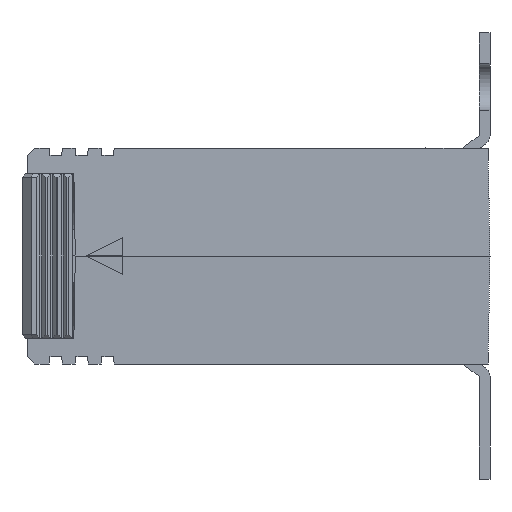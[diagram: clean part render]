
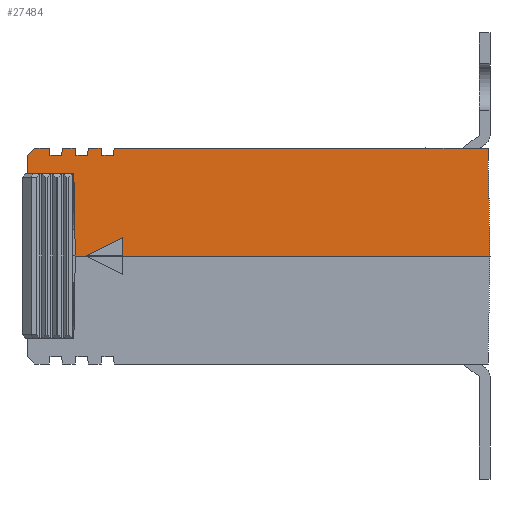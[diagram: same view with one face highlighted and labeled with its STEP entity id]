
A CAD part, left-side view. The second image highlights one B-rep face of the part: STEP entity #27484.
In plain terms, the highlighted planar face has unit normal (-1, 0, 0.018).
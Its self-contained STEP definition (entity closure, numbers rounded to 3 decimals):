
#1267=FACE_OUTER_BOUND('',#2789,.T.);
#2789=EDGE_LOOP('',(#17649,#17650,#17651,#17652,#17653,#17654,#17655,#17656,
#17657,#17658,#17659,#17660,#17661,#17662,#17663,#17664,#17665,#17666,#17667,
#17668,#17669,#17670));
#4419=LINE('',#36614,#7413);
#4693=LINE('',#38865,#7687);
#4694=LINE('',#38867,#7688);
#4695=LINE('',#38869,#7689);
#4696=LINE('',#38871,#7690);
#4697=LINE('',#38873,#7691);
#4698=LINE('',#38875,#7692);
#4699=LINE('',#38877,#7693);
#4700=LINE('',#38879,#7694);
#4701=LINE('',#38881,#7695);
#4702=LINE('',#38883,#7696);
#4703=LINE('',#38885,#7697);
#4704=LINE('',#38887,#7698);
#4705=LINE('',#38889,#7699);
#4706=LINE('',#38891,#7700);
#4707=LINE('',#38893,#7701);
#4708=LINE('',#38895,#7702);
#4709=LINE('',#38897,#7703);
#4710=LINE('',#38899,#7704);
#4711=LINE('',#38901,#7705);
#4712=LINE('',#38903,#7706);
#4713=LINE('',#38904,#7707);
#7413=VECTOR('',#30573,1000.);
#7687=VECTOR('',#30961,1000.);
#7688=VECTOR('',#30962,1000.);
#7689=VECTOR('',#30963,1000.);
#7690=VECTOR('',#30964,1000.);
#7691=VECTOR('',#30965,1000.);
#7692=VECTOR('',#30966,1000.);
#7693=VECTOR('',#30967,1000.);
#7694=VECTOR('',#30968,1000.);
#7695=VECTOR('',#30969,1000.);
#7696=VECTOR('',#30970,1000.);
#7697=VECTOR('',#30971,1000.);
#7698=VECTOR('',#30972,1000.);
#7699=VECTOR('',#30973,1000.);
#7700=VECTOR('',#30974,1000.);
#7701=VECTOR('',#30975,1000.);
#7702=VECTOR('',#30976,1000.);
#7703=VECTOR('',#30977,1000.);
#7704=VECTOR('',#30978,1000.);
#7705=VECTOR('',#30979,1000.);
#7706=VECTOR('',#30980,1000.);
#7707=VECTOR('',#30981,1000.);
#10690=VERTEX_POINT('',#36611);
#10691=VERTEX_POINT('',#36613);
#11071=VERTEX_POINT('',#38864);
#11072=VERTEX_POINT('',#38866);
#11073=VERTEX_POINT('',#38868);
#11074=VERTEX_POINT('',#38870);
#11075=VERTEX_POINT('',#38872);
#11076=VERTEX_POINT('',#38874);
#11077=VERTEX_POINT('',#38876);
#11078=VERTEX_POINT('',#38878);
#11079=VERTEX_POINT('',#38880);
#11080=VERTEX_POINT('',#38882);
#11081=VERTEX_POINT('',#38884);
#11082=VERTEX_POINT('',#38886);
#11083=VERTEX_POINT('',#38888);
#11084=VERTEX_POINT('',#38890);
#11085=VERTEX_POINT('',#38892);
#11086=VERTEX_POINT('',#38894);
#11087=VERTEX_POINT('',#38896);
#11088=VERTEX_POINT('',#38898);
#11089=VERTEX_POINT('',#38900);
#11090=VERTEX_POINT('',#38902);
#13249=EDGE_CURVE('',#10691,#10690,#4419,.T.);
#13652=EDGE_CURVE('',#11071,#10690,#4693,.T.);
#13653=EDGE_CURVE('',#11072,#11071,#4694,.T.);
#13654=EDGE_CURVE('',#11072,#11073,#4695,.T.);
#13655=EDGE_CURVE('',#11073,#11074,#4696,.T.);
#13656=EDGE_CURVE('',#11075,#11074,#4697,.T.);
#13657=EDGE_CURVE('',#11076,#11075,#4698,.T.);
#13658=EDGE_CURVE('',#11077,#11076,#4699,.T.);
#13659=EDGE_CURVE('',#11078,#11077,#4700,.T.);
#13660=EDGE_CURVE('',#11079,#11078,#4701,.T.);
#13661=EDGE_CURVE('',#11080,#11079,#4702,.T.);
#13662=EDGE_CURVE('',#11081,#11080,#4703,.T.);
#13663=EDGE_CURVE('',#11082,#11081,#4704,.T.);
#13664=EDGE_CURVE('',#11083,#11082,#4705,.T.);
#13665=EDGE_CURVE('',#11084,#11083,#4706,.T.);
#13666=EDGE_CURVE('',#11085,#11084,#4707,.T.);
#13667=EDGE_CURVE('',#11086,#11085,#4708,.T.);
#13668=EDGE_CURVE('',#11087,#11086,#4709,.T.);
#13669=EDGE_CURVE('',#11088,#11087,#4710,.T.);
#13670=EDGE_CURVE('',#11089,#11088,#4711,.T.);
#13671=EDGE_CURVE('',#11089,#11090,#4712,.T.);
#13672=EDGE_CURVE('',#11090,#10691,#4713,.T.);
#17649=ORIENTED_EDGE('',*,*,#13652,.F.);
#17650=ORIENTED_EDGE('',*,*,#13653,.F.);
#17651=ORIENTED_EDGE('',*,*,#13654,.T.);
#17652=ORIENTED_EDGE('',*,*,#13655,.T.);
#17653=ORIENTED_EDGE('',*,*,#13656,.F.);
#17654=ORIENTED_EDGE('',*,*,#13657,.F.);
#17655=ORIENTED_EDGE('',*,*,#13658,.F.);
#17656=ORIENTED_EDGE('',*,*,#13659,.F.);
#17657=ORIENTED_EDGE('',*,*,#13660,.F.);
#17658=ORIENTED_EDGE('',*,*,#13661,.F.);
#17659=ORIENTED_EDGE('',*,*,#13662,.F.);
#17660=ORIENTED_EDGE('',*,*,#13663,.F.);
#17661=ORIENTED_EDGE('',*,*,#13664,.F.);
#17662=ORIENTED_EDGE('',*,*,#13665,.F.);
#17663=ORIENTED_EDGE('',*,*,#13666,.F.);
#17664=ORIENTED_EDGE('',*,*,#13667,.F.);
#17665=ORIENTED_EDGE('',*,*,#13668,.F.);
#17666=ORIENTED_EDGE('',*,*,#13669,.F.);
#17667=ORIENTED_EDGE('',*,*,#13670,.F.);
#17668=ORIENTED_EDGE('',*,*,#13671,.T.);
#17669=ORIENTED_EDGE('',*,*,#13672,.T.);
#17670=ORIENTED_EDGE('',*,*,#13249,.T.);
#25048=PLANE('',#29038);
#27484=ADVANCED_FACE('',(#1267),#25048,.T.);
#29038=AXIS2_PLACEMENT_3D('',#38863,#30959,#30960);
#30573=DIRECTION('',(0.,-1.,0.));
#30959=DIRECTION('center_axis',(-1.,0.,
0.017));
#30960=DIRECTION('ref_axis',(0.017,0.,1.));
#30961=DIRECTION('',(0.017,0.017,1.));
#30962=DIRECTION('',(0.,1.,0.));
#30963=DIRECTION('',(0.008,-0.894,0.447));
#30964=DIRECTION('',(-0.017,0.,-1.));
#30965=DIRECTION('',(0.,1.,0.));
#30966=DIRECTION('',(-0.017,-0.017,-1.));
#30967=DIRECTION('',(0.,-1.,0.));
#30968=DIRECTION('',(0.017,-0.087,0.996));
#30969=DIRECTION('',(0.,-1.,0.));
#30970=DIRECTION('',(-0.017,-0.087,-0.996));
#30971=DIRECTION('',(0.,-1.,0.));
#30972=DIRECTION('',(0.017,-0.087,0.996));
#30973=DIRECTION('',(0.,-1.,0.));
#30974=DIRECTION('',(-0.017,-0.087,-0.996));
#30975=DIRECTION('',(0.,-1.,0.));
#30976=DIRECTION('',(0.017,-0.087,0.996));
#30977=DIRECTION('',(0.,-1.,0.));
#30978=DIRECTION('',(-0.017,-0.087,-0.996));
#30979=DIRECTION('',(0.,-1.,0.));
#30980=DIRECTION('',(-0.012,0.719,-0.695));
#30981=DIRECTION('',(-0.017,0.017,-1.));
#36611=CARTESIAN_POINT('',(-21.799,30.799,11.5));
#36613=CARTESIAN_POINT('',(-21.799,37.299,11.5));
#36614=CARTESIAN_POINT('',(-21.799,37.5,11.5));
#38863=CARTESIAN_POINT('Origin',(-22.,37.5,0.));
#38864=CARTESIAN_POINT('',(-22.,30.599,0.));
#38865=CARTESIAN_POINT('',(-21.998,30.601,0.12));
#38866=CARTESIAN_POINT('',(-22.,29.049,0.));
#38867=CARTESIAN_POINT('',(-22.,37.5,0.));
#38868=CARTESIAN_POINT('',(-21.956,24.049,2.5));
#38869=CARTESIAN_POINT('',(-22.,29.049,0.));
#38870=CARTESIAN_POINT('',(-22.,24.049,0.));
#38871=CARTESIAN_POINT('',(-21.956,24.049,2.5));
#38872=CARTESIAN_POINT('',(-22.,-27.,0.));
#38873=CARTESIAN_POINT('',(-22.,37.5,0.));
#38874=CARTESIAN_POINT('',(-21.738,-26.738,15.));
#38875=CARTESIAN_POINT('',(-22.,-27.,0.));
#38876=CARTESIAN_POINT('',(-21.738,25.2,15.));
#38877=CARTESIAN_POINT('',(-21.738,37.5,15.));
#38878=CARTESIAN_POINT('',(-21.756,25.287,14.));
#38879=CARTESIAN_POINT('',(-22.017,26.596,-0.954));
#38880=CARTESIAN_POINT('',(-21.756,26.913,14.));
#38881=CARTESIAN_POINT('',(-21.756,37.5,14.));
#38882=CARTESIAN_POINT('',(-21.738,27.,15.));
#38883=CARTESIAN_POINT('',(-21.982,25.777,1.025));
#38884=CARTESIAN_POINT('',(-21.738,28.8,15.));
#38885=CARTESIAN_POINT('',(-21.738,37.5,15.));
#38886=CARTESIAN_POINT('',(-21.756,28.887,14.));
#38887=CARTESIAN_POINT('',(-22.011,30.168,-0.641));
#38888=CARTESIAN_POINT('',(-21.756,30.513,14.));
#38889=CARTESIAN_POINT('',(-21.756,37.5,14.));
#38890=CARTESIAN_POINT('',(-21.738,30.6,15.));
#38891=CARTESIAN_POINT('',(-21.988,29.35,0.713));
#38892=CARTESIAN_POINT('',(-21.738,32.4,15.));
#38893=CARTESIAN_POINT('',(-21.738,37.5,15.));
#38894=CARTESIAN_POINT('',(-21.756,32.487,14.));
#38895=CARTESIAN_POINT('',(-22.006,33.741,-0.329));
#38896=CARTESIAN_POINT('',(-21.756,34.113,14.));
#38897=CARTESIAN_POINT('',(-21.756,37.5,14.));
#38898=CARTESIAN_POINT('',(-21.738,34.2,15.));
#38899=CARTESIAN_POINT('',(-21.993,32.923,0.4));
#38900=CARTESIAN_POINT('',(-21.738,36.22,15.));
#38901=CARTESIAN_POINT('',(-21.738,37.5,15.));
#38902=CARTESIAN_POINT('',(-21.756,37.256,14.));
#38903=CARTESIAN_POINT('',(-21.876,44.379,7.121));
#38904=CARTESIAN_POINT('',(-22.,37.5,0.));
